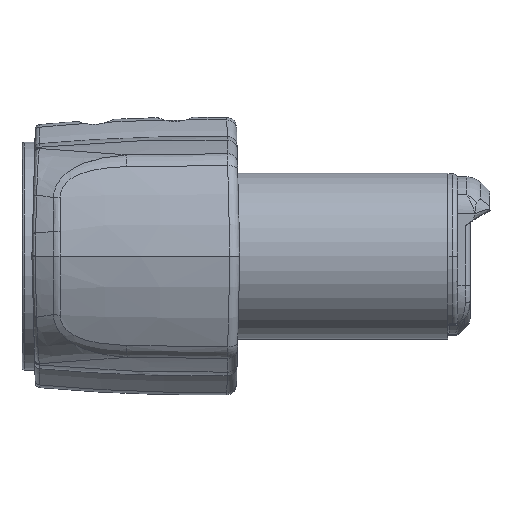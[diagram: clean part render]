
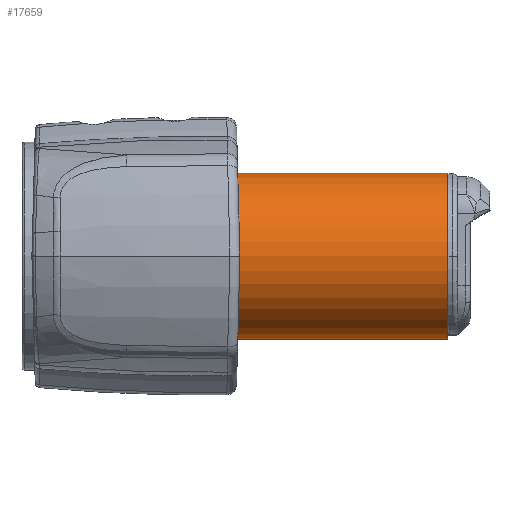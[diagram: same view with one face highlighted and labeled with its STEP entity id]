
A CAD part, left-side view. The second image highlights one B-rep face of the part: STEP entity #17659.
In plain terms, the highlighted cylindrical face has radius 16.75 mm (diameter 33.5 mm), a partial arc.
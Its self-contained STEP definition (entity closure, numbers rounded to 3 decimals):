
#17505=DIRECTION('',(0.,1.,0.));
#17506=VECTOR('',#17505,82.);
#17507=CARTESIAN_POINT('',(0.,0.,16.75));
#17508=LINE('',#17507,#17506);
#17537=CARTESIAN_POINT('',(0.,0.,0.));
#17538=DIRECTION('',(0.,-1.,0.));
#17539=DIRECTION('',(0.,0.,-1.));
#17540=AXIS2_PLACEMENT_3D('',#17537,#17538,#17539);
#17547=CARTESIAN_POINT('',(0.,82.,0.));
#17548=DIRECTION('',(0.,1.,0.));
#17549=DIRECTION('',(0.,0.,1.));
#17550=AXIS2_PLACEMENT_3D('',#17547,#17548,#17549);
#17552=DIRECTION('',(0.,1.,0.));
#17553=VECTOR('',#17552,82.);
#17554=CARTESIAN_POINT('',(0.,0.,-16.75));
#17555=LINE('',#17554,#17553);
#17556=CARTESIAN_POINT('',(0.,0.,-16.75));
#17557=CARTESIAN_POINT('',(0.,0.,16.75));
#17558=VERTEX_POINT('',#17556);
#17559=VERTEX_POINT('',#17557);
#17568=CARTESIAN_POINT('',(0.,82.,-16.75));
#17569=CARTESIAN_POINT('',(0.,82.,16.75));
#17570=VERTEX_POINT('',#17568);
#17571=VERTEX_POINT('',#17569);
#17648=CARTESIAN_POINT('',(0.,302.,0.));
#17649=DIRECTION('',(0.,-1.,0.));
#17650=DIRECTION('',(0.,0.,-1.));
#17651=AXIS2_PLACEMENT_3D('',#17648,#17649,#17650);
#17652=CYLINDRICAL_SURFACE('',#17651,16.75);
#17653=ORIENTED_EDGE('',*,*,#17594,.T.);
#17654=ORIENTED_EDGE('',*,*,#17583,.F.);
#17655=ORIENTED_EDGE('',*,*,#17639,.T.);
#17656=ORIENTED_EDGE('',*,*,#17579,.T.);
#17657=EDGE_LOOP('',(#17653,#17654,#17655,#17656));
#17658=FACE_OUTER_BOUND('',#17657,.F.);
#17659=ADVANCED_FACE('',(#17658),#17652,.T.);
#17541=CIRCLE('',#17540,16.75);
#17551=CIRCLE('',#17550,16.75);
#17579=EDGE_CURVE('',#17559,#17571,#17508,.T.);
#17583=EDGE_CURVE('',#17558,#17570,#17555,.T.);
#17594=EDGE_CURVE('',#17571,#17570,#17551,.T.);
#17639=EDGE_CURVE('',#17558,#17559,#17541,.T.);
